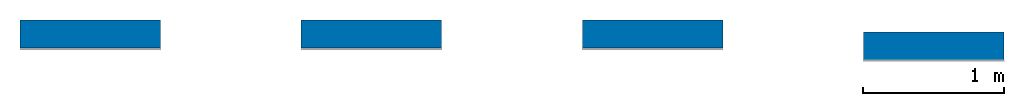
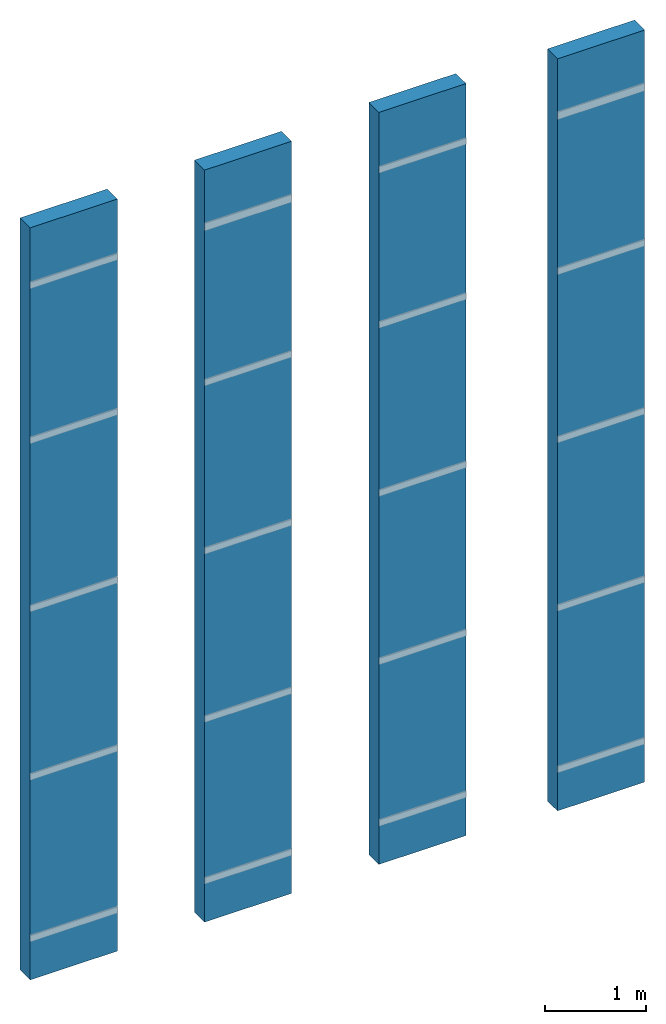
# One storey, part 1 of 2: 4 walls.
"""IFC2X3 building model written with IfcOpenShell, lengths in millimetres."""

from ifc_helpers import new_model, entity, si_unit, converted_unit, derived_unit, direction, frame, frame_2d, origin, place, context, subcontext, project, spatial, rectangle, extrude, type_object, element, save


model = new_model("IFC2X3")

# Units and contexts
model_context = context("Model", 3, precision=0.01, world=origin(), true_north=direction((6.12303176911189e-17, 1.0)))
body_context = subcontext(model_context, "Body", "Model", "MODEL_VIEW")
ifc_project = project(units=[si_unit("LENGTHUNIT", "METRE", prefix="MILLI"), si_unit("AREAUNIT", "SQUARE_METRE"), si_unit("VOLUMEUNIT", "CUBIC_METRE"), converted_unit("PLANEANGLEUNIT", "DEGREE", entity("IfcRatioMeasure", 0.0174532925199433), si_unit("PLANEANGLEUNIT", "RADIAN"), dimensions=[0, 0, 0, 0, 0, 0, 0]), si_unit("MASSUNIT", "GRAM", prefix="KILO"), derived_unit("MASSDENSITYUNIT", [(si_unit("MASSUNIT", "GRAM", prefix="KILO"), 1), (si_unit("LENGTHUNIT", "METRE"), -3)]), derived_unit("MOMENTOFINERTIAUNIT", [(si_unit("LENGTHUNIT", "METRE"), 4)]), si_unit("TIMEUNIT", "SECOND"), si_unit("FREQUENCYUNIT", "HERTZ"), si_unit("THERMODYNAMICTEMPERATUREUNIT", "DEGREE_CELSIUS"), derived_unit("THERMALTRANSMITTANCEUNIT", [(si_unit("MASSUNIT", "GRAM", prefix="KILO"), 1), (si_unit("THERMODYNAMICTEMPERATUREUNIT", "KELVIN"), -1), (si_unit("TIMEUNIT", "SECOND"), -3)]), derived_unit("VOLUMETRICFLOWRATEUNIT", [(si_unit("LENGTHUNIT", "METRE"), 3), (si_unit("TIMEUNIT", "SECOND"), -1)]), si_unit("ELECTRICCURRENTUNIT", "AMPERE"), si_unit("ELECTRICVOLTAGEUNIT", "VOLT"), si_unit("POWERUNIT", "WATT"), si_unit("FORCEUNIT", "NEWTON", prefix="KILO"), si_unit("ILLUMINANCEUNIT", "LUX"), si_unit("LUMINOUSFLUXUNIT", "LUMEN"), si_unit("LUMINOUSINTENSITYUNIT", "CANDELA"), derived_unit("USERDEFINED", [(si_unit("MASSUNIT", "GRAM", prefix="KILO"), -1), (si_unit("LENGTHUNIT", "METRE"), -2), (si_unit("TIMEUNIT", "SECOND"), 3), (si_unit("LUMINOUSFLUXUNIT", "LUMEN"), 1)]), derived_unit("LINEARVELOCITYUNIT", [(si_unit("LENGTHUNIT", "METRE"), 1), (si_unit("TIMEUNIT", "SECOND"), -1)]), si_unit("PRESSUREUNIT", "PASCAL"), derived_unit("USERDEFINED", [(si_unit("LENGTHUNIT", "METRE"), -2), (si_unit("MASSUNIT", "GRAM", prefix="KILO"), 1), (si_unit("TIMEUNIT", "SECOND"), -2)]), derived_unit("LINEARFORCEUNIT", [(si_unit("MASSUNIT", "GRAM", prefix="KILO"), 1), (si_unit("LENGTHUNIT", "METRE"), 1), (si_unit("TIMEUNIT", "SECOND"), -2), (si_unit("LENGTHUNIT", "METRE"), -1)]), derived_unit("PLANARFORCEUNIT", [(si_unit("MASSUNIT", "GRAM", prefix="KILO"), 1), (si_unit("LENGTHUNIT", "METRE"), 1), (si_unit("TIMEUNIT", "SECOND"), -2), (si_unit("LENGTHUNIT", "METRE"), -2)])], contexts=[model_context])

# Site, building, storey
site_placement = place(None, origin())
site = spatial("IfcSite", under=ifc_project, at=site_placement, Name="Default", CompositionType="ELEMENT")
building_placement = place(site_placement, origin())
building = spatial("IfcBuilding", under=site, at=building_placement, CompositionType="ELEMENT")
storey_placement = place(building_placement, origin())
storey = spatial("IfcBuildingStorey", under=building, at=storey_placement, Name="Level 1", CompositionType="ELEMENT", Elevation=0.0)

# Walls
wall_type = type_object("IfcWallType", Name="Basic Wall:Wall 1", PredefinedType="STANDARD")
wall_1_placement = place(storey_placement, frame((7591.50231570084, -7582.91446572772, -12207.1540156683)))
element("IfcWallStandardCase", 1, at=wall_1_placement, inside=storey, type_object=wall_type, Name="Basic Wall:Wall 1", ObjectType="Basic Wall:Wall 1", context=body_context, shape_type="SweptSolid", body=[
    extrude(rectangle(XDim=1000.0, YDim=200.0, at=frame_2d((500.000000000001, 3.5527136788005e-14), x_axis=(-1.0, 0.0))), origin(), (0.0, 0.0, 1.0), 9118.90269353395),
])
wall_2_placement = place(storey_placement, frame((11591.5023157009, -7667.31164211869, -12207.1540156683)))
element("IfcWallStandardCase", 2, at=wall_2_placement, inside=storey, type_object=wall_type, Name="Basic Wall:Wall 1", ObjectType="Basic Wall:Wall 1", context=body_context, shape_type="SweptSolid", body=[
    extrude(rectangle(XDim=1000.0, YDim=200.0, at=frame_2d((500.0, 3.5527136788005e-14), x_axis=(-1.0, 0.0))), origin(), (0.0, 0.0, 1.0), 9118.90269353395),
])
for number, where, name in (
    (3, (5591.50231570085, -7582.91446572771, -12207.1540156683), "Basic Wall:Wall 1"),
    (4, (9591.50231570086, -7582.91446572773, -12207.1540156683), "Basic Wall:Wall 1"),
):
    element("IfcWallStandardCase", number, at=place(storey_placement, frame(where)), inside=storey, type_object=wall_type, Name=name, ObjectType="Basic Wall:Wall 1", context=body_context, shape_type="SweptSolid", body=[
        extrude(rectangle(XDim=1000.0, YDim=200.0, at=frame_2d((500.000000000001, 3.5527136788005e-14), x_axis=(-1.0, 0.0))), origin(), (0.0, 0.0, 1.0), 9118.90269353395),
    ])

save(model, "model.ifc")
